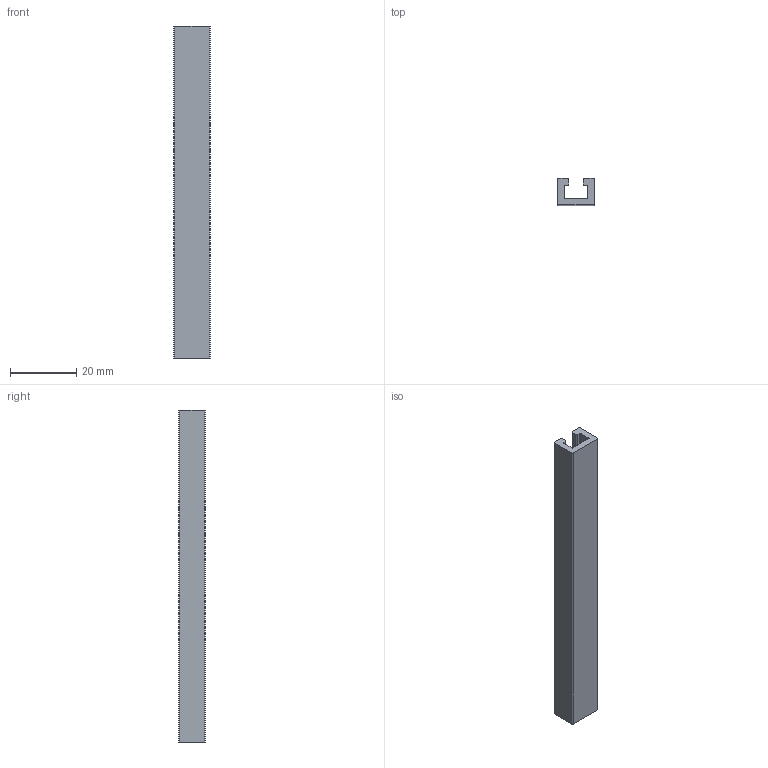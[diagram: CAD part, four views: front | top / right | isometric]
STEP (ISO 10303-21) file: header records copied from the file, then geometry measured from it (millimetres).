
FILE_DESCRIPTION((''),'2;1');
FILE_NAME('E:\catalogue and flyer\Profile catalogue 2015\profile-step file,31MAr16\PS-SRRAIL11x8.stp','2016-03-31T14:25:41',('h029'),(''),'Autodesk Inventor 11','Autodesk Inventor 11','');
FILE_SCHEMA(('AUTOMOTIVE_DESIGN { 1 0 10303 214 1 1 1 1 }'));
Length unit declared in the file: millimetre
Products named in the file (1): sensor rail 
Bounding box: 11 x 8 x 100 mm (x, y, z)
Volume: 5008.4 mm3; surface area: 5511.4 mm2
Topology: 1 solids, 1 shells, 24 faces, 66 edges, 44 vertices
Faces by surface type: plane 14, cylinder 10
Entity records: 793 total; most frequent: DIRECTION 136, CARTESIAN_POINT 135, ORIENTED_EDGE 132, EDGE_CURVE 66, VECTOR 46, LINE 46, AXIS2_PLACEMENT_3D 45, VERTEX_POINT 44
